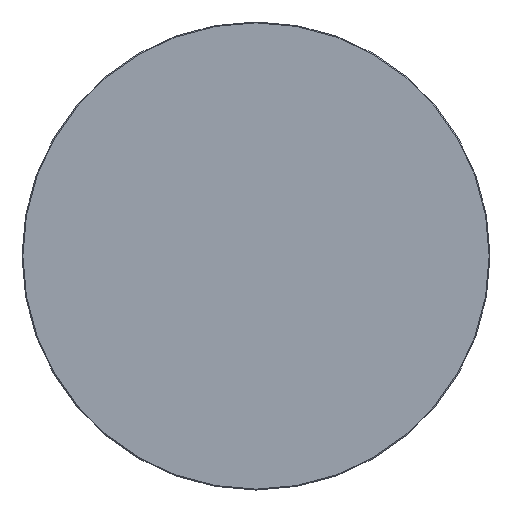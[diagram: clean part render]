
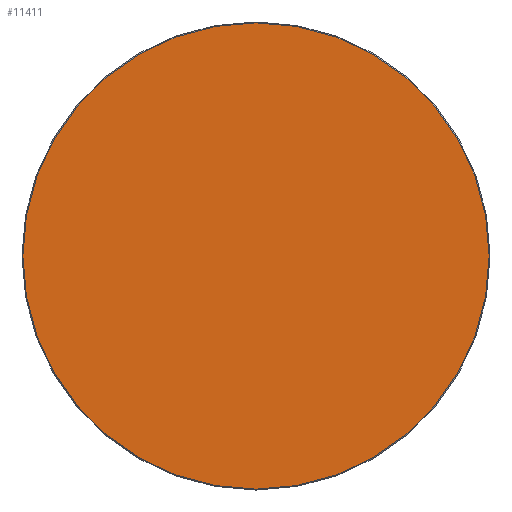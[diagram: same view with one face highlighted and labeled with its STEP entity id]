
A CAD part, top view. The second image highlights one B-rep face of the part: STEP entity #11411.
In plain terms, the highlighted planar face has unit normal (0, 0, 1).
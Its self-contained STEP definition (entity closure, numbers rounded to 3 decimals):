
#11336=CARTESIAN_POINT('',(0.,0.,20.));
#11337=DIRECTION('',(1.,0.,0.));
#11338=DIRECTION('',(0.,0.,1.));
#11339=AXIS2_PLACEMENT_3D('',#11336,#11338,#11337);
#11340=PLANE('',#11339);
#11341=CARTESIAN_POINT('',(-0.5,-398.5,20.));
#11342=VERTEX_POINT('',#11341);
#11343=CARTESIAN_POINT('',(0.5,-398.5,20.));
#11344=VERTEX_POINT('',#11343);
#11345=CARTESIAN_POINT('',(-0.5,-398.5,20.));
#11346=DIRECTION('',(1.,0.,0.));
#11347=VECTOR('',#11346,1.);
#11348=LINE('',#11345,#11347);
#11349=EDGE_CURVE('',#11342,#11344,#11348,.T.);
#11350=ORIENTED_EDGE('E105',*,*,#11349,.T.);
#11351=CARTESIAN_POINT('',(398.5,-0.5,20.));
#11352=VERTEX_POINT('',#11351);
#11353=CARTESIAN_POINT('',(0.5,-0.5,20.));
#11354=DIRECTION('',(0.,-1.,0.));
#11355=DIRECTION('',(0.,0.,1.));
#11356=AXIS2_PLACEMENT_3D('',#11353,#11355,#11354);
#11357=CIRCLE('',#11356,398.);
#11358=EDGE_CURVE('',#11344,#11352,#11357,.T.);
#11359=ORIENTED_EDGE('E107',*,*,#11358,.T.);
#11360=CARTESIAN_POINT('',(398.5,0.5,20.));
#11361=VERTEX_POINT('',#11360);
#11362=CARTESIAN_POINT('',(398.5,-0.5,20.));
#11363=DIRECTION('',(0.,1.,0.));
#11364=VECTOR('',#11363,1.);
#11365=LINE('',#11362,#11364);
#11366=EDGE_CURVE('',#11352,#11361,#11365,.T.);
#11367=ORIENTED_EDGE('E109',*,*,#11366,.T.);
#11368=CARTESIAN_POINT('',(0.5,398.5,20.));
#11369=VERTEX_POINT('',#11368);
#11370=CARTESIAN_POINT('',(0.5,0.5,20.));
#11371=DIRECTION('',(1.,0.,0.));
#11372=DIRECTION('',(0.,0.,1.));
#11373=AXIS2_PLACEMENT_3D('',#11370,#11372,#11371);
#11374=CIRCLE('',#11373,398.);
#11375=EDGE_CURVE('',#11361,#11369,#11374,.T.);
#11376=ORIENTED_EDGE('E111',*,*,#11375,.T.);
#11377=CARTESIAN_POINT('',(-0.5,398.5,20.));
#11378=VERTEX_POINT('',#11377);
#11379=CARTESIAN_POINT('',(0.5,398.5,20.));
#11380=DIRECTION('',(-1.,0.,0.));
#11381=VECTOR('',#11380,1.);
#11382=LINE('',#11379,#11381);
#11383=EDGE_CURVE('',#11369,#11378,#11382,.T.);
#11384=ORIENTED_EDGE('E113',*,*,#11383,.T.);
#11385=CARTESIAN_POINT('',(-398.5,0.5,20.));
#11386=VERTEX_POINT('',#11385);
#11387=CARTESIAN_POINT('',(-0.5,0.5,20.));
#11388=DIRECTION('',(0.,1.,0.));
#11389=DIRECTION('',(0.,0.,1.));
#11390=AXIS2_PLACEMENT_3D('',#11387,#11389,#11388);
#11391=CIRCLE('',#11390,398.);
#11392=EDGE_CURVE('',#11378,#11386,#11391,.T.);
#11393=ORIENTED_EDGE('E115',*,*,#11392,.T.);
#11394=CARTESIAN_POINT('',(-398.5,-0.5,20.));
#11395=VERTEX_POINT('',#11394);
#11396=CARTESIAN_POINT('',(-398.5,0.5,20.));
#11397=DIRECTION('',(0.,-1.,0.));
#11398=VECTOR('',#11397,1.);
#11399=LINE('',#11396,#11398);
#11400=EDGE_CURVE('',#11386,#11395,#11399,.T.);
#11401=ORIENTED_EDGE('E117',*,*,#11400,.T.);
#11402=CARTESIAN_POINT('',(-0.5,-0.5,20.));
#11403=DIRECTION('',(-1.,0.,0.));
#11404=DIRECTION('',(-0.,0.,1.));
#11405=AXIS2_PLACEMENT_3D('',#11402,#11404,#11403);
#11406=CIRCLE('',#11405,398.);
#11407=EDGE_CURVE('',#11395,#11342,#11406,.T.);
#11408=ORIENTED_EDGE('E119',*,*,#11407,.T.);
#11409=EDGE_LOOP('',(#11350,#11359,#11367,#11376,#11384,#11393,#11401,#11408));
#11410=FACE_OUTER_BOUND('',#11409,.T.);
#11411=ADVANCED_FACE('F2',(#11410),#11340,.T.);
